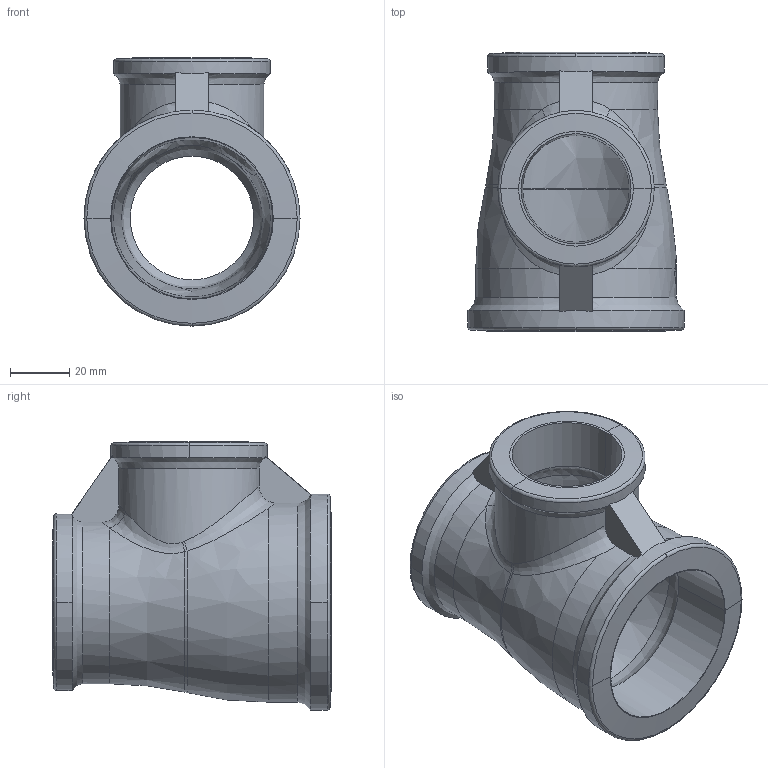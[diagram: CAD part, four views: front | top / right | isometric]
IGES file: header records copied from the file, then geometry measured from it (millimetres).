
Global section: file name: No Iges File Name specified; native system: AutoDesk Inventor R12.0; preprocessor: AutoDesk Inventor Iges Exporter R12.0; date: 20090916.162512; units: millimetre
Bounding box: 72.8 x 94 x 90.4 mm (x, y, z)
Volume: 114767.6 mm3; surface area: 43298.9 mm2
Topology: 1 solids, 1 shells, 92 faces, 279 edges, 188 vertices
Faces by surface type: bspline 38, plane 19, cylinder 14, revolution 8, cone 7, torus 6
